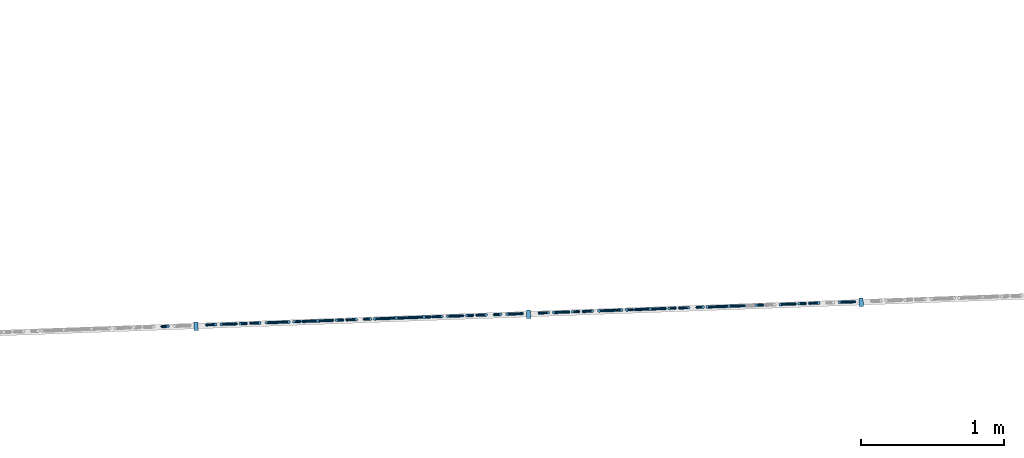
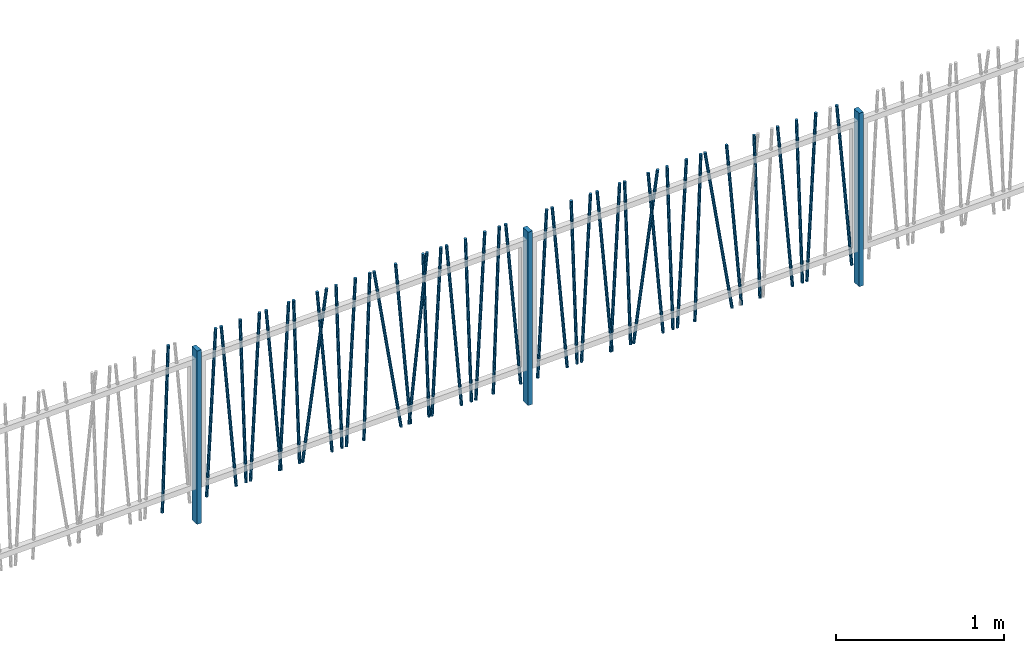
# One storey, part 6 of 171: 45 columns.
"""IFC2X3 building model written with IfcOpenShell, lengths in millimetres."""

from ifc_helpers import new_model, entity, si_unit, converted_unit, derived_unit, money_unit, direction, frame, origin_with_axes, origin_2d_with_axis, place, context, subcontext, project, spatial, rectangle, circle, extrude, clip, halfspace, material, type_object, element, save


model = new_model("IFC2X3")

# Units and contexts
model_context = context("Model", 3, precision=0.01, world=origin_with_axes(), true_north=direction((0.0, 1.0)))
body_context = subcontext(model_context, "Body", "Model", "MODEL_VIEW")
ifc_project = project(units=[si_unit("LENGTHUNIT", "METRE", prefix="MILLI"), si_unit("AREAUNIT", "SQUARE_METRE"), si_unit("VOLUMEUNIT", "CUBIC_METRE"), converted_unit("PLANEANGLEUNIT", "DEGREE", entity("IfcPlaneAngleMeasure", 0.0174532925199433), si_unit("PLANEANGLEUNIT", "RADIAN"), dimensions=[0, 0, 0, 0, 0, 0, 0]), money_unit("USD"), converted_unit("TIMEUNIT", "Year", entity("IfcTimeMeasure", 31557600.0), si_unit("TIMEUNIT", "SECOND"), dimensions=[0, 0, 1, 0, 0, 0, 0]), si_unit("MASSUNIT", "GRAM", prefix="KILO"), si_unit("THERMODYNAMICTEMPERATUREUNIT", "DEGREE_CELSIUS"), si_unit("LUMINOUSINTENSITYUNIT", "LUMEN"), si_unit("ENERGYUNIT", "JOULE", prefix="MEGA"), derived_unit("THERMALCONDUCTANCEUNIT", [(si_unit("POWERUNIT", "WATT"), 1), (si_unit("LENGTHUNIT", "METRE"), -1), (si_unit("THERMODYNAMICTEMPERATUREUNIT", "KELVIN"), -1)]), derived_unit("SPECIFICHEATCAPACITYUNIT", [(si_unit("ENERGYUNIT", "JOULE"), 1), (si_unit("MASSUNIT", "GRAM", prefix="KILO"), -1), (si_unit("THERMODYNAMICTEMPERATUREUNIT", "KELVIN"), -1)]), derived_unit("MASSDENSITYUNIT", [(si_unit("MASSUNIT", "GRAM", prefix="KILO"), 1), (si_unit("VOLUMEUNIT", "CUBIC_METRE"), -1)])], contexts=[model_context])

# Site, building, storey
site_placement = place(None, origin_with_axes())
site = spatial("IfcSite", under=ifc_project, at=site_placement, Name="Site", CompositionType="ELEMENT")
building_placement = place(site_placement, origin_with_axes())
building = spatial("IfcBuilding", under=site, at=building_placement, Name="Bâtiment", CompositionType="ELEMENT")
storey_placement = place(building_placement, frame((0.0, 0.0, 3000.0), z_axis=(0.0, 0.0, 1.0), x_axis=(1.0, 0.0, 0.0)))
storey = spatial("IfcBuildingStorey", under=building, at=storey_placement, Name="rdc", CompositionType="ELEMENT", Elevation=3000.0)

# Columns
ifc_material = material(Name="Empty Fill 2959611567")
column_type_1 = type_object("IfcColumnType", Name="Empty Fill 2959611567 D20", PredefinedType="NOTDEFINED")
column_1_placement = place(storey_placement, frame((2234103.55734482, -667536.7174946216, -1950.0), z_axis=(0.0, 0.0, 1.0), x_axis=(-0.03567989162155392, 0.9993632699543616, 0.0)))
element("IfcColumn", 1, at=column_1_placement, inside=storey, type_object=column_type_1, material=ifc_material, Name="Pilier-019", context=body_context, shape_type="Clipping", body=[
    clip(clip(extrude(circle(Radius=10.0, at=origin_2d_with_axis()), frame((0.0, -0.02437434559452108, -0.6979899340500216), z_axis=(0.0, 0.03489949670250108, 0.9993908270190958), x_axis=(1.0, 0.0, 0.0)), (0.0, 0.0, 1.0), 1202.128283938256), halfspace(frame((0.0, 0.0, 0.0), z_axis=(0.0, 0.0, 1.0), x_axis=(0.0, -1.0, 0.0)), True)), halfspace(frame((0.0, 0.0, 1200.0), z_axis=(0.0, 0.0, -1.0), x_axis=(0.0, 1.0, 0.0)), True)),
])
column_2_placement = place(storey_placement, frame((2232543.385040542, -667592.4197406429, -1950.0), z_axis=(0.0, 0.0, 1.0), x_axis=(0.03567989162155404, -0.9993632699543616, 0.0)))
element("IfcColumn", 2, at=column_2_placement, inside=storey, type_object=column_type_1, material=ifc_material, Name="Pilier-019", context=body_context, shape_type="Clipping", body=[
    clip(clip(extrude(circle(Radius=10.0, at=origin_2d_with_axis()), frame((0.0, -0.05485622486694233, -1.046719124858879), z_axis=(0.0, -0.05233595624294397, -0.9986295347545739), x_axis=(-1.0, 0.0, 0.0)), (0.0, 0.0, -1.0), 1203.743126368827), halfspace(frame((0.0, 0.0, 0.0), z_axis=(0.0, 0.0, 1.0), x_axis=(0.0, -1.0, 0.0)), True)), halfspace(frame((0.0, 0.0, 1200.0), z_axis=(0.0, 0.0, -1.0), x_axis=(0.0, 1.0, 0.0)), True)),
])
column_3_placement = place(storey_placement, frame((2232750.393553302, -667585.0289934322, -1950.0), z_axis=(0.0, 0.0, 1.0), x_axis=(-0.03567989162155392, 0.9993632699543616, 0.0)))
element("IfcColumn", 3, at=column_3_placement, inside=storey, type_object=column_type_1, material=ifc_material, Name="Pilier-019", context=body_context, shape_type="Clipping", body=[
    clip(clip(extrude(circle(Radius=10.0, at=origin_2d_with_axis()), frame((0.0, -0.152502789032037, -1.743114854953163), z_axis=(0.0, 0.08715574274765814, 0.9961946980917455), x_axis=(1.0, 0.0, 0.0)), (0.0, 0.0, 1.0), 1208.083351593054), halfspace(frame((0.0, 0.0, 0.0), z_axis=(0.0, 0.0, 1.0), x_axis=(0.0, -1.0, 0.0)), True)), halfspace(frame((0.0, 0.0, 1200.0), z_axis=(0.0, 0.0, -1.0), x_axis=(0.0, 1.0, 0.0)), True)),
])
column_4_placement = place(storey_placement, frame((2229908.659358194, -667686.4863624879, -1950.0), z_axis=(0.0, 0.0, 1.0), x_axis=(0.03567989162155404, -0.9993632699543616, 0.0)))
element("IfcColumn", 4, at=column_4_placement, inside=storey, type_object=column_type_1, material=ifc_material, Name="Pilier-019", context=body_context, shape_type="Clipping", body=[
    clip(clip(extrude(circle(Radius=10.0, at=origin_2d_with_axis()), frame((0.0, -0.02437434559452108, -0.6979899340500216), z_axis=(0.0, -0.03489949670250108, -0.9993908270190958), x_axis=(-1.0, 0.0, 0.0)), (0.0, 0.0, -1.0), 1202.128283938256), halfspace(frame((0.0, 0.0, 0.0), z_axis=(0.0, 0.0, 1.0), x_axis=(0.0, -1.0, 0.0)), True)), halfspace(frame((0.0, 0.0, 1200.0), z_axis=(0.0, 0.0, -1.0), x_axis=(0.0, 1.0, 0.0)), True)),
])
column_5_placement = place(storey_placement, frame((2230732.554617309, -667657.0711393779, -1950.0), z_axis=(0.0, 0.0, 1.0), x_axis=(0.03567989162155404, -0.9993632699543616, 0.0)))
element("IfcColumn", 5, at=column_5_placement, inside=storey, type_object=column_type_1, material=ifc_material, Name="Pilier-019", context=body_context, shape_type="Clipping", body=[
    clip(clip(extrude(circle(Radius=10.0, at=origin_2d_with_axis()), frame((0.0, -0.05485622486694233, -1.046719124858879), z_axis=(0.0, -0.05233595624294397, -0.9986295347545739), x_axis=(-1.0, 0.0, 0.0)), (0.0, 0.0, -1.0), 1203.743126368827), halfspace(frame((0.0, 0.0, 0.0), z_axis=(0.0, 0.0, 1.0), x_axis=(0.0, -1.0, 0.0)), True)), halfspace(frame((0.0, 0.0, 1200.0), z_axis=(0.0, 0.0, -1.0), x_axis=(0.0, 1.0, 0.0)), True)),
])
column_6_placement = place(storey_placement, frame((2231169.832747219, -667641.4591624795, -1950.0), z_axis=(0.0, 0.0, 1.0), x_axis=(-0.03567989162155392, 0.9993632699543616, 0.0)))
element("IfcColumn", 6, at=column_6_placement, inside=storey, type_object=column_type_1, material=ifc_material, Name="Pilier-019", context=body_context, shape_type="Clipping", body=[
    clip(clip(extrude(circle(Radius=10.0, at=origin_2d_with_axis()), frame((0.0, -0.02437434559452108, -0.6979899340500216), z_axis=(0.0, 0.03489949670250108, 0.9993908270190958), x_axis=(1.0, 0.0, 0.0)), (0.0, 0.0, 1.0), 1202.128283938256), halfspace(frame((0.0, 0.0, 0.0), z_axis=(0.0, 0.0, 1.0), x_axis=(0.0, -1.0, 0.0)), True)), halfspace(frame((0.0, 0.0, 1200.0), z_axis=(0.0, 0.0, -1.0), x_axis=(0.0, 1.0, 0.0)), True)),
])
column_7_placement = place(storey_placement, frame((2231323.361051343, -667635.9777990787, -1950.0), z_axis=(0.0, 0.0, 1.0), x_axis=(0.03567989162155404, -0.9993632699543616, 0.0)))
element("IfcColumn", 7, at=column_7_placement, inside=storey, type_object=column_type_1, material=ifc_material, Name="Pilier-019", context=body_context, shape_type="Clipping", body=[
    clip(clip(extrude(circle(Radius=10.0, at=origin_2d_with_axis()), frame((0.0, -0.02437434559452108, -0.6979899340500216), z_axis=(0.0, -0.03489949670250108, -0.9993908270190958), x_axis=(-1.0, 0.0, 0.0)), (0.0, 0.0, -1.0), 1202.128283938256), halfspace(frame((0.0, 0.0, 0.0), z_axis=(0.0, 0.0, 1.0), x_axis=(0.0, -1.0, 0.0)), True)), halfspace(frame((0.0, 0.0, 1200.0), z_axis=(0.0, 0.0, -1.0), x_axis=(0.0, 1.0, 0.0)), True)),
])
column_8_placement = place(storey_placement, frame((2230872.283197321, -667652.0824623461, -1950.0), z_axis=(0.0, 0.0, 1.0), x_axis=(-0.03567989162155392, 0.9993632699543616, 0.0)))
element("IfcColumn", 8, at=column_8_placement, inside=storey, type_object=column_type_1, material=ifc_material, Name="Pilier-019", context=body_context, shape_type="Clipping", body=[
    clip(clip(extrude(circle(Radius=10.0, at=origin_2d_with_axis()), frame((0.0, -0.02437434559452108, -0.6979899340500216), z_axis=(0.0, 0.03489949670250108, 0.9993908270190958), x_axis=(1.0, 0.0, 0.0)), (0.0, 0.0, 1.0), 1202.128283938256), halfspace(frame((0.0, 0.0, 0.0), z_axis=(0.0, 0.0, 1.0), x_axis=(0.0, -1.0, 0.0)), True)), halfspace(frame((0.0, 0.0, 1200.0), z_axis=(0.0, 0.0, -1.0), x_axis=(0.0, 1.0, 0.0)), True)),
])
column_9_placement = place(storey_placement, frame((2231201.105975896, -667640.3426261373, -1950.0), z_axis=(0.0, 0.0, 1.0), x_axis=(0.03567989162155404, -0.9993632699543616, 0.0)))
element("IfcColumn", 9, at=column_9_placement, inside=storey, type_object=column_type_1, material=ifc_material, Name="Pilier-019", context=body_context, shape_type="Clipping", body=[
    clip(clip(extrude(circle(Radius=10.0, at=origin_2d_with_axis()), frame((0.0, -0.05485622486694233, -1.046719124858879), z_axis=(0.0, -0.05233595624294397, -0.9986295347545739), x_axis=(-1.0, 0.0, 0.0)), (0.0, 0.0, -1.0), 1203.743126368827), halfspace(frame((0.0, 0.0, 0.0), z_axis=(0.0, 0.0, 1.0), x_axis=(0.0, -1.0, 0.0)), True)), halfspace(frame((0.0, 0.0, 1200.0), z_axis=(0.0, 0.0, -1.0), x_axis=(0.0, 1.0, 0.0)), True)),
])
column_10_placement = place(storey_placement, frame((2231584.532856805, -667626.6532801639, -1950.0), z_axis=(0.0, 0.0, 1.0), x_axis=(-0.03567989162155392, 0.9993632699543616, 0.0)))
element("IfcColumn", 10, at=column_10_placement, inside=storey, type_object=column_type_1, material=ifc_material, Name="Pilier-019", context=body_context, shape_type="Clipping", body=[
    clip(clip(extrude(circle(Radius=10.0, at=origin_2d_with_axis()), frame((0.0, -0.4955357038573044, -3.128689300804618), z_axis=(0.0, 0.1564344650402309, 0.9876883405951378), x_axis=(1.0, 0.0, 0.0)), (0.0, 0.0, 1.0), 1221.293528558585), halfspace(frame((0.0, 0.0, 0.0), z_axis=(0.0, 0.0, 1.0), x_axis=(0.0, -1.0, 0.0)), True)), halfspace(frame((0.0, 0.0, 1200.0), z_axis=(0.0, 0.0, -1.0), x_axis=(0.0, 1.0, 0.0)), True)),
])
for number, where, z_axis, x_axis, name in (
    (11, (2231650.739178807, -667624.2895407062, -1950.0), (0.0, 0.0, 1.0), (-0.03567989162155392, 0.9993632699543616, 0.0), "Pilier-019"),
    (12, (2230742.452951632, -667656.7177428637, -1950.0), (0.0, 0.0, 1.0), (-0.03567989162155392, 0.9993632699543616, 0.0), "Pilier-019"),
    (13, (2232424.116563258, -667596.6779383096, -1950.0), (0.0, 0.0, 1.0), (-0.03567989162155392, 0.9993632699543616, 0.0), "Pilier-019"),
):
    element("IfcColumn", number, at=place(storey_placement, frame(where, z_axis=z_axis, x_axis=x_axis)), inside=storey, type_object=column_type_1, material=ifc_material, Name=name, context=body_context, shape_type="Clipping", body=[
        clip(clip(extrude(circle(Radius=10.0, at=origin_2d_with_axis()), frame((0.0, -0.152502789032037, -1.743114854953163), z_axis=(0.0, 0.08715574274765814, 0.9961946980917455), x_axis=(1.0, 0.0, 0.0)), (0.0, 0.0, 1.0), 1208.083351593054), halfspace(frame((0.0, 0.0, 0.0), z_axis=(0.0, 0.0, 1.0), x_axis=(0.0, -1.0, 0.0)), True)), halfspace(frame((0.0, 0.0, 1200.0), z_axis=(0.0, 0.0, -1.0), x_axis=(0.0, 1.0, 0.0)), True)),
    ])
column_11_placement = place(storey_placement, frame((2230528.098978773, -667664.3707422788, -1950.0), z_axis=(0.0, 0.0, 1.0), x_axis=(0.03567989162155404, -0.9993632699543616, 0.0)))
element("IfcColumn", 14, at=column_11_placement, inside=storey, type_object=column_type_1, material=ifc_material, Name="Pilier-019", context=body_context, shape_type="Clipping", body=[
    clip(clip(extrude(circle(Radius=10.0, at=origin_2d_with_axis()), frame((0.0, -0.05485622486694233, -1.046719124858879), z_axis=(0.0, -0.05233595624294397, -0.9986295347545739), x_axis=(-1.0, 0.0, 0.0)), (0.0, 0.0, -1.0), 1203.743126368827), halfspace(frame((0.0, 0.0, 0.0), z_axis=(0.0, 0.0, 1.0), x_axis=(0.0, -1.0, 0.0)), True)), halfspace(frame((0.0, 0.0, 1200.0), z_axis=(0.0, 0.0, -1.0), x_axis=(0.0, 1.0, 0.0)), True)),
])
column_12_placement = place(storey_placement, frame((2230496.825750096, -667665.4872786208, -1950.0), z_axis=(0.0, 0.0, 1.0), x_axis=(-0.03567989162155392, 0.9993632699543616, 0.0)))
element("IfcColumn", 15, at=column_12_placement, inside=storey, type_object=column_type_1, material=ifc_material, Name="Pilier-019", context=body_context, shape_type="Clipping", body=[
    clip(clip(extrude(circle(Radius=10.0, at=origin_2d_with_axis()), frame((0.0, -0.02437434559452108, -0.6979899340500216), z_axis=(0.0, 0.03489949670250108, 0.9993908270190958), x_axis=(1.0, 0.0, 0.0)), (0.0, 0.0, 1.0), 1202.128283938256), halfspace(frame((0.0, 0.0, 0.0), z_axis=(0.0, 0.0, 1.0), x_axis=(0.0, -1.0, 0.0)), True)), halfspace(frame((0.0, 0.0, 1200.0), z_axis=(0.0, 0.0, -1.0), x_axis=(0.0, 1.0, 0.0)), True)),
])
column_13_placement = place(storey_placement, frame((2231100.4126301, -667643.9376428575, -1950.0), z_axis=(0.0, 0.0, 1.0), x_axis=(-0.03567989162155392, 0.9993632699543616, 0.0)))
element("IfcColumn", 16, at=column_13_placement, inside=storey, type_object=column_type_1, material=ifc_material, Name="Pilier-019", context=body_context, shape_type="Clipping", body=[
    clip(clip(extrude(circle(Radius=10.0, at=origin_2d_with_axis()), frame((0.0, -0.152502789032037, -1.743114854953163), z_axis=(0.0, 0.08715574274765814, 0.9961946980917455), x_axis=(1.0, 0.0, 0.0)), (0.0, 0.0, 1.0), 1208.083351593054), halfspace(frame((0.0, 0.0, 0.0), z_axis=(0.0, 0.0, 1.0), x_axis=(0.0, -1.0, 0.0)), True)), halfspace(frame((0.0, 0.0, 1200.0), z_axis=(0.0, 0.0, -1.0), x_axis=(0.0, 1.0, 0.0)), True)),
])
column_14_placement = place(storey_placement, frame((2231640.840844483, -667624.6429372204, -1950.0), z_axis=(0.0, 0.0, 1.0), x_axis=(0.03567989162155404, -0.9993632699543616, 0.0)))
element("IfcColumn", 17, at=column_14_placement, inside=storey, type_object=column_type_1, material=ifc_material, Name="Pilier-019", context=body_context, shape_type="Clipping", body=[
    clip(clip(extrude(circle(Radius=10.0, at=origin_2d_with_axis()), frame((0.0, -0.2197276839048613, -2.090569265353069), z_axis=(0.0, -0.1045284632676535, -0.9945218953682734), x_axis=(-1.0, 0.0, 0.0)), (0.0, 0.0, -1.0), 1210.814104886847), halfspace(frame((0.0, 0.0, 0.0), z_axis=(0.0, 0.0, 1.0), x_axis=(0.0, -1.0, 0.0)), True)), halfspace(frame((0.0, 0.0, 1200.0), z_axis=(0.0, 0.0, -1.0), x_axis=(0.0, 1.0, 0.0)), True)),
])
column_15_placement = place(storey_placement, frame((2232109.39220307, -667607.9144239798, -1950.0), z_axis=(0.0, 0.0, 1.0), x_axis=(0.03567989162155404, -0.9993632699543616, 0.0)))
element("IfcColumn", 18, at=column_15_placement, inside=storey, type_object=column_type_1, material=ifc_material, Name="Pilier-019", context=body_context, shape_type="Clipping", body=[
    clip(clip(extrude(circle(Radius=10.0, at=origin_2d_with_axis()), frame((0.0, -0.05485622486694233, -1.046719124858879), z_axis=(0.0, -0.05233595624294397, -0.9986295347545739), x_axis=(-1.0, 0.0, 0.0)), (0.0, 0.0, -1.0), 1203.743126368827), halfspace(frame((0.0, 0.0, 0.0), z_axis=(0.0, 0.0, 1.0), x_axis=(0.0, -1.0, 0.0)), True)), halfspace(frame((0.0, 0.0, 1200.0), z_axis=(0.0, 0.0, -1.0), x_axis=(0.0, 1.0, 0.0)), True)),
])
column_16_placement = place(storey_placement, frame((2230893.40411734, -667651.3283900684, -1950.0), z_axis=(0.0, 0.0, 1.0), x_axis=(0.03567989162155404, -0.9993632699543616, 0.0)))
element("IfcColumn", 19, at=column_16_placement, inside=storey, type_object=column_type_1, material=ifc_material, Name="Pilier-019", context=body_context, shape_type="Clipping", body=[
    clip(clip(extrude(circle(Radius=10.0, at=origin_2d_with_axis()), frame((0.0, -0.3911900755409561, -2.78346201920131), z_axis=(0.0, -0.1391731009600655, -0.9902680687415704), x_axis=(-1.0, 0.0, 0.0)), (0.0, 0.0, -1.0), 1217.414720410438), halfspace(frame((0.0, 0.0, 0.0), z_axis=(0.0, 0.0, 1.0), x_axis=(0.0, -1.0, 0.0)), True)), halfspace(frame((0.0, 0.0, 1200.0), z_axis=(0.0, 0.0, -1.0), x_axis=(0.0, 1.0, 0.0)), True)),
])
column_17_placement = place(storey_placement, frame((2232078.118974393, -667609.0309603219, -1950.0), z_axis=(0.0, 0.0, 1.0), x_axis=(-0.03567989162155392, 0.9993632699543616, 0.0)))
element("IfcColumn", 20, at=column_17_placement, inside=storey, type_object=column_type_1, material=ifc_material, Name="Pilier-019", context=body_context, shape_type="Clipping", body=[
    clip(clip(extrude(circle(Radius=10.0, at=origin_2d_with_axis()), frame((0.0, -0.02437434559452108, -0.6979899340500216), z_axis=(0.0, 0.03489949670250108, 0.9993908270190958), x_axis=(1.0, 0.0, 0.0)), (0.0, 0.0, 1.0), 1202.128283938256), halfspace(frame((0.0, 0.0, 0.0), z_axis=(0.0, 0.0, 1.0), x_axis=(0.0, -1.0, 0.0)), True)), halfspace(frame((0.0, 0.0, 1200.0), z_axis=(0.0, 0.0, -1.0), x_axis=(0.0, 1.0, 0.0)), True)),
])
column_18_placement = place(storey_placement, frame((2232231.647278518, -667603.5495969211, -1950.0), z_axis=(0.0, 0.0, 1.0), x_axis=(0.03567989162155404, -0.9993632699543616, 0.0)))
element("IfcColumn", 21, at=column_18_placement, inside=storey, type_object=column_type_1, material=ifc_material, Name="Pilier-019", context=body_context, shape_type="Clipping", body=[
    clip(clip(extrude(circle(Radius=10.0, at=origin_2d_with_axis()), frame((0.0, -0.02437434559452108, -0.6979899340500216), z_axis=(0.0, -0.03489949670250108, -0.9993908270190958), x_axis=(-1.0, 0.0, 0.0)), (0.0, 0.0, -1.0), 1202.128283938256), halfspace(frame((0.0, 0.0, 0.0), z_axis=(0.0, 0.0, 1.0), x_axis=(0.0, -1.0, 0.0)), True)), halfspace(frame((0.0, 0.0, 1200.0), z_axis=(0.0, 0.0, -1.0), x_axis=(0.0, 1.0, 0.0)), True)),
])
column_19_placement = place(storey_placement, frame((2231780.569424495, -667619.6542601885, -1950.0), z_axis=(0.0, 0.0, 1.0), x_axis=(-0.03567989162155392, 0.9993632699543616, 0.0)))
element("IfcColumn", 22, at=column_19_placement, inside=storey, type_object=column_type_1, material=ifc_material, Name="Pilier-019", context=body_context, shape_type="Clipping", body=[
    clip(clip(extrude(circle(Radius=10.0, at=origin_2d_with_axis()), frame((0.0, -0.02437434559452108, -0.6979899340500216), z_axis=(0.0, 0.03489949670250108, 0.9993908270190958), x_axis=(1.0, 0.0, 0.0)), (0.0, 0.0, 1.0), 1202.128283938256), halfspace(frame((0.0, 0.0, 0.0), z_axis=(0.0, 0.0, 1.0), x_axis=(0.0, -1.0, 0.0)), True)), halfspace(frame((0.0, 0.0, 1200.0), z_axis=(0.0, 0.0, -1.0), x_axis=(0.0, 1.0, 0.0)), True)),
])
column_20_placement = place(storey_placement, frame((2232008.698857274, -667611.5094406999, -1950.0), z_axis=(0.0, 0.0, 1.0), x_axis=(-0.03567989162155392, 0.9993632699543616, 0.0)))
element("IfcColumn", 23, at=column_20_placement, inside=storey, type_object=column_type_1, material=ifc_material, Name="Pilier-019", context=body_context, shape_type="Clipping", body=[
    clip(clip(extrude(circle(Radius=10.0, at=origin_2d_with_axis()), frame((0.0, -0.152502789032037, -1.743114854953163), z_axis=(0.0, 0.08715574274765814, 0.9961946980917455), x_axis=(1.0, 0.0, 0.0)), (0.0, 0.0, 1.0), 1208.083351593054), halfspace(frame((0.0, 0.0, 0.0), z_axis=(0.0, 0.0, 1.0), x_axis=(0.0, -1.0, 0.0)), True)), halfspace(frame((0.0, 0.0, 1200.0), z_axis=(0.0, 0.0, -1.0), x_axis=(0.0, 1.0, 0.0)), True)),
])
column_21_placement = place(storey_placement, frame((2231801.690344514, -667618.9001879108, -1950.0), z_axis=(0.0, 0.0, 1.0), x_axis=(0.03567989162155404, -0.9993632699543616, 0.0)))
element("IfcColumn", 24, at=column_21_placement, inside=storey, type_object=column_type_1, material=ifc_material, Name="Pilier-019", context=body_context, shape_type="Clipping", body=[
    clip(clip(extrude(circle(Radius=10.0, at=origin_2d_with_axis()), frame((0.0, -0.05485622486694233, -1.046719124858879), z_axis=(0.0, -0.05233595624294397, -0.9986295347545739), x_axis=(-1.0, 0.0, 0.0)), (0.0, 0.0, -1.0), 1203.743126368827), halfspace(frame((0.0, 0.0, 0.0), z_axis=(0.0, 0.0, 1.0), x_axis=(0.0, -1.0, 0.0)), True)), halfspace(frame((0.0, 0.0, 1200.0), z_axis=(0.0, 0.0, -1.0), x_axis=(0.0, 1.0, 0.0)), True)),
])
column_22_placement = place(storey_placement, frame((2230427.405632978, -667667.9657589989, -1950.0), z_axis=(0.0, 0.0, 1.0), x_axis=(-0.03567989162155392, 0.9993632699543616, 0.0)))
element("IfcColumn", 25, at=column_22_placement, inside=storey, type_object=column_type_1, material=ifc_material, Name="Pilier-019", context=body_context, shape_type="Clipping", body=[
    clip(clip(extrude(circle(Radius=10.0, at=origin_2d_with_axis()), frame((0.0, -0.152502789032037, -1.743114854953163), z_axis=(0.0, 0.08715574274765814, 0.9961946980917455), x_axis=(1.0, 0.0, 0.0)), (0.0, 0.0, 1.0), 1208.083351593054), halfspace(frame((0.0, 0.0, 0.0), z_axis=(0.0, 0.0, 1.0), x_axis=(0.0, -1.0, 0.0)), True)), halfspace(frame((0.0, 0.0, 1200.0), z_axis=(0.0, 0.0, -1.0), x_axis=(0.0, 1.0, 0.0)), True)),
])
for number, where, z_axis, x_axis, name in (
    (26, (2230220.397120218, -667675.3565062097, -1950.0), (0.0, 0.0, 1.0), (0.03567989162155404, -0.9993632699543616, 0.0), "Pilier-019"),
    (27, (2233055.542537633, -667574.1343738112, -1950.0), (0.0, 0.0, 1.0), (0.03567989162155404, -0.9993632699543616, 0.0), "Pilier-019"),
):
    element("IfcColumn", number, at=place(storey_placement, frame(where, z_axis=z_axis, x_axis=x_axis)), inside=storey, type_object=column_type_1, material=ifc_material, Name=name, context=body_context, shape_type="Clipping", body=[
        clip(clip(extrude(circle(Radius=10.0, at=origin_2d_with_axis()), frame((0.0, -0.05485622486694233, -1.046719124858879), z_axis=(0.0, -0.05233595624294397, -0.9986295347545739), x_axis=(-1.0, 0.0, 0.0)), (0.0, 0.0, -1.0), 1203.743126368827), halfspace(frame((0.0, 0.0, 0.0), z_axis=(0.0, 0.0, 1.0), x_axis=(0.0, -1.0, 0.0)), True)), halfspace(frame((0.0, 0.0, 1200.0), z_axis=(0.0, 0.0, -1.0), x_axis=(0.0, 1.0, 0.0)), True)),
    ])
column_23_placement = place(storey_placement, frame((2233492.820667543, -667558.5223969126, -1950.0), z_axis=(0.0, 0.0, 1.0), x_axis=(-0.03567989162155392, 0.9993632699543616, 0.0)))
element("IfcColumn", 28, at=column_23_placement, inside=storey, type_object=column_type_1, material=ifc_material, Name="Pilier-019", context=body_context, shape_type="Clipping", body=[
    clip(clip(extrude(circle(Radius=10.0, at=origin_2d_with_axis()), frame((0.0, -0.02437434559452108, -0.6979899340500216), z_axis=(0.0, 0.03489949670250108, 0.9993908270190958), x_axis=(1.0, 0.0, 0.0)), (0.0, 0.0, 1.0), 1202.128283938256), halfspace(frame((0.0, 0.0, 0.0), z_axis=(0.0, 0.0, 1.0), x_axis=(0.0, -1.0, 0.0)), True)), halfspace(frame((0.0, 0.0, 1200.0), z_axis=(0.0, 0.0, -1.0), x_axis=(0.0, 1.0, 0.0)), True)),
])
column_24_placement = place(storey_placement, frame((2233524.09389622, -667557.4058605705, -1950.0), z_axis=(0.0, 0.0, 1.0), x_axis=(0.03567989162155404, -0.9993632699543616, 0.0)))
element("IfcColumn", 29, at=column_24_placement, inside=storey, type_object=column_type_1, material=ifc_material, Name="Pilier-019", context=body_context, shape_type="Clipping", body=[
    clip(clip(extrude(circle(Radius=10.0, at=origin_2d_with_axis()), frame((0.0, -0.05485622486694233, -1.046719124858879), z_axis=(0.0, -0.05233595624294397, -0.9986295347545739), x_axis=(-1.0, 0.0, 0.0)), (0.0, 0.0, -1.0), 1203.743126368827), halfspace(frame((0.0, 0.0, 0.0), z_axis=(0.0, 0.0, 1.0), x_axis=(0.0, -1.0, 0.0)), True)), halfspace(frame((0.0, 0.0, 1200.0), z_axis=(0.0, 0.0, -1.0), x_axis=(0.0, 1.0, 0.0)), True)),
])
column_25_placement = place(storey_placement, frame((2233646.348971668, -667553.0410335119, -1950.0), z_axis=(0.0, 0.0, 1.0), x_axis=(0.03567989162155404, -0.9993632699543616, 0.0)))
element("IfcColumn", 30, at=column_25_placement, inside=storey, type_object=column_type_1, material=ifc_material, Name="Pilier-019", context=body_context, shape_type="Clipping", body=[
    clip(clip(extrude(circle(Radius=10.0, at=origin_2d_with_axis()), frame((0.0, -0.02437434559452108, -0.6979899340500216), z_axis=(0.0, -0.03489949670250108, -0.9993908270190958), x_axis=(-1.0, 0.0, 0.0)), (0.0, 0.0, -1.0), 1202.128283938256), halfspace(frame((0.0, 0.0, 0.0), z_axis=(0.0, 0.0, 1.0), x_axis=(0.0, -1.0, 0.0)), True)), halfspace(frame((0.0, 0.0, 1200.0), z_axis=(0.0, 0.0, -1.0), x_axis=(0.0, 1.0, 0.0)), True)),
])
column_26_placement = place(storey_placement, frame((2233907.520777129, -667543.7165145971, -1950.0), z_axis=(0.0, 0.0, 1.0), x_axis=(-0.03567989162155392, 0.9993632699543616, 0.0)))
element("IfcColumn", 31, at=column_26_placement, inside=storey, type_object=column_type_1, material=ifc_material, Name="Pilier-019", context=body_context, shape_type="Clipping", body=[
    clip(clip(extrude(circle(Radius=10.0, at=origin_2d_with_axis()), frame((0.0, -0.4955357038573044, -3.128689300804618), z_axis=(0.0, 0.1564344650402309, 0.9876883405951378), x_axis=(1.0, 0.0, 0.0)), (0.0, 0.0, 1.0), 1221.293528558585), halfspace(frame((0.0, 0.0, 0.0), z_axis=(0.0, 0.0, 1.0), x_axis=(0.0, -1.0, 0.0)), True)), halfspace(frame((0.0, 0.0, 1200.0), z_axis=(0.0, 0.0, -1.0), x_axis=(0.0, 1.0, 0.0)), True)),
])
for number, where, z_axis, x_axis, name in (
    (32, (2234747.104483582, -667513.7411727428, -1950.0), (0.0, 0.0, 1.0), (-0.03567989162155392, 0.9993632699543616, 0.0), "Pilier-019"),
    (33, (2233973.727099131, -667541.3527751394, -1950.0), (0.0, 0.0, 1.0), (-0.03567989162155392, 0.9993632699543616, 0.0), "Pilier-019"),
):
    element("IfcColumn", number, at=place(storey_placement, frame(where, z_axis=z_axis, x_axis=x_axis)), inside=storey, type_object=column_type_1, material=ifc_material, Name=name, context=body_context, shape_type="Clipping", body=[
        clip(clip(extrude(circle(Radius=10.0, at=origin_2d_with_axis()), frame((0.0, -0.152502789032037, -1.743114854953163), z_axis=(0.0, 0.08715574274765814, 0.9961946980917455), x_axis=(1.0, 0.0, 0.0)), (0.0, 0.0, 1.0), 1208.083351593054), halfspace(frame((0.0, 0.0, 0.0), z_axis=(0.0, 0.0, 1.0), x_axis=(0.0, -1.0, 0.0)), True)), halfspace(frame((0.0, 0.0, 1200.0), z_axis=(0.0, 0.0, -1.0), x_axis=(0.0, 1.0, 0.0)), True)),
    ])
column_27_placement = place(storey_placement, frame((2232851.086899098, -667581.4339767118, -1950.0), z_axis=(0.0, 0.0, 1.0), x_axis=(0.03567989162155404, -0.9993632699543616, 0.0)))
element("IfcColumn", 34, at=column_27_placement, inside=storey, type_object=column_type_1, material=ifc_material, Name="Pilier-019", context=body_context, shape_type="Clipping", body=[
    clip(clip(extrude(circle(Radius=10.0, at=origin_2d_with_axis()), frame((0.0, -0.05485622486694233, -1.046719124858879), z_axis=(0.0, -0.05233595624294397, -0.9986295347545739), x_axis=(-1.0, 0.0, 0.0)), (0.0, 0.0, -1.0), 1203.743126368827), halfspace(frame((0.0, 0.0, 0.0), z_axis=(0.0, 0.0, 1.0), x_axis=(0.0, -1.0, 0.0)), True)), halfspace(frame((0.0, 0.0, 1200.0), z_axis=(0.0, 0.0, -1.0), x_axis=(0.0, 1.0, 0.0)), True)),
])
column_28_placement = place(storey_placement, frame((2232819.813670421, -667582.550513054, -1950.0), z_axis=(0.0, 0.0, 1.0), x_axis=(-0.03567989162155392, 0.9993632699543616, 0.0)))
element("IfcColumn", 35, at=column_28_placement, inside=storey, type_object=column_type_1, material=ifc_material, Name="Pilier-019", context=body_context, shape_type="Clipping", body=[
    clip(clip(extrude(circle(Radius=10.0, at=origin_2d_with_axis()), frame((0.0, -0.02437434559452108, -0.6979899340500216), z_axis=(0.0, 0.03489949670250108, 0.9993908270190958), x_axis=(1.0, 0.0, 0.0)), (0.0, 0.0, 1.0), 1202.128283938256), halfspace(frame((0.0, 0.0, 0.0), z_axis=(0.0, 0.0, 1.0), x_axis=(0.0, -1.0, 0.0)), True)), halfspace(frame((0.0, 0.0, 1200.0), z_axis=(0.0, 0.0, -1.0), x_axis=(0.0, 1.0, 0.0)), True)),
])
for number, where, z_axis, x_axis, name in (
    (36, (2233423.400550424, -667561.0008772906, -1950.0), (0.0, 0.0, 1.0), (-0.03567989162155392, 0.9993632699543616, 0.0), "Pilier-019"),
    (37, (2233065.440871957, -667573.7809772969, -1950.0), (0.0, 0.0, 1.0), (-0.03567989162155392, 0.9993632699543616, 0.0), "Pilier-019"),
):
    element("IfcColumn", number, at=place(storey_placement, frame(where, z_axis=z_axis, x_axis=x_axis)), inside=storey, type_object=column_type_1, material=ifc_material, Name=name, context=body_context, shape_type="Clipping", body=[
        clip(clip(extrude(circle(Radius=10.0, at=origin_2d_with_axis()), frame((0.0, -0.152502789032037, -1.743114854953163), z_axis=(0.0, 0.08715574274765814, 0.9961946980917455), x_axis=(1.0, 0.0, 0.0)), (0.0, 0.0, 1.0), 1208.083351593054), halfspace(frame((0.0, 0.0, 0.0), z_axis=(0.0, 0.0, 1.0), x_axis=(0.0, -1.0, 0.0)), True)), halfspace(frame((0.0, 0.0, 1200.0), z_axis=(0.0, 0.0, -1.0), x_axis=(0.0, 1.0, 0.0)), True)),
    ])
column_29_placement = place(storey_placement, frame((2233216.392037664, -667568.3916245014, -1950.0), z_axis=(0.0, 0.0, 1.0), x_axis=(0.03567989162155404, -0.9993632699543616, 0.0)))
element("IfcColumn", 38, at=column_29_placement, inside=storey, type_object=column_type_1, material=ifc_material, Name="Pilier-019", context=body_context, shape_type="Clipping", body=[
    clip(clip(extrude(circle(Radius=10.0, at=origin_2d_with_axis()), frame((0.0, -0.3911900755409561, -2.78346201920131), z_axis=(0.0, -0.1391731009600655, -0.9902680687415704), x_axis=(-1.0, 0.0, 0.0)), (0.0, 0.0, -1.0), 1217.414720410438), halfspace(frame((0.0, 0.0, 0.0), z_axis=(0.0, 0.0, 1.0), x_axis=(0.0, -1.0, 0.0)), True)), halfspace(frame((0.0, 0.0, 1200.0), z_axis=(0.0, 0.0, -1.0), x_axis=(0.0, 1.0, 0.0)), True)),
])
column_30_placement = place(storey_placement, frame((2233195.271117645, -667569.1456967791, -1950.0), z_axis=(0.0, 0.0, 1.0), x_axis=(-0.03567989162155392, 0.9993632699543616, 0.0)))
element("IfcColumn", 39, at=column_30_placement, inside=storey, type_object=column_type_1, material=ifc_material, Name="Pilier-019", context=body_context, shape_type="Clipping", body=[
    clip(clip(extrude(circle(Radius=10.0, at=origin_2d_with_axis()), frame((0.0, -0.02437434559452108, -0.6979899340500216), z_axis=(0.0, 0.03489949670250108, 0.9993908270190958), x_axis=(1.0, 0.0, 0.0)), (0.0, 0.0, 1.0), 1202.128283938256), halfspace(frame((0.0, 0.0, 0.0), z_axis=(0.0, 0.0, 1.0), x_axis=(0.0, -1.0, 0.0)), True)), halfspace(frame((0.0, 0.0, 1200.0), z_axis=(0.0, 0.0, -1.0), x_axis=(0.0, 1.0, 0.0)), True)),
])
column_31_placement = place(storey_placement, frame((2234432.380123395, -667524.977658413, -1950.0), z_axis=(0.0, 0.0, 1.0), x_axis=(0.03567989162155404, -0.9993632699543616, 0.0)))
element("IfcColumn", 40, at=column_31_placement, inside=storey, type_object=column_type_1, material=ifc_material, Name="Pilier-019", context=body_context, shape_type="Clipping", body=[
    clip(clip(extrude(circle(Radius=10.0, at=origin_2d_with_axis()), frame((0.0, -0.05485622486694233, -1.046719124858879), z_axis=(0.0, -0.05233595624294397, -0.9986295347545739), x_axis=(-1.0, 0.0, 0.0)), (0.0, 0.0, -1.0), 1203.743126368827), halfspace(frame((0.0, 0.0, 0.0), z_axis=(0.0, 0.0, 1.0), x_axis=(0.0, -1.0, 0.0)), True)), halfspace(frame((0.0, 0.0, 1200.0), z_axis=(0.0, 0.0, -1.0), x_axis=(0.0, 1.0, 0.0)), True)),
])
column_32_placement = place(storey_placement, frame((2234401.106894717, -667526.0941947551, -1950.0), z_axis=(0.0, 0.0, 1.0), x_axis=(-0.03567989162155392, 0.9993632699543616, 0.0)))
element("IfcColumn", 41, at=column_32_placement, inside=storey, type_object=column_type_1, material=ifc_material, Name="Pilier-019", context=body_context, shape_type="Clipping", body=[
    clip(clip(extrude(circle(Radius=10.0, at=origin_2d_with_axis()), frame((0.0, -0.02437434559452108, -0.6979899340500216), z_axis=(0.0, 0.03489949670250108, 0.9993908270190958), x_axis=(1.0, 0.0, 0.0)), (0.0, 0.0, 1.0), 1202.128283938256), halfspace(frame((0.0, 0.0, 0.0), z_axis=(0.0, 0.0, 1.0), x_axis=(0.0, -1.0, 0.0)), True)), halfspace(frame((0.0, 0.0, 1200.0), z_axis=(0.0, 0.0, -1.0), x_axis=(0.0, 1.0, 0.0)), True)),
])
column_33_placement = place(storey_placement, frame((2234331.686777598, -667528.5726751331, -1950.0), z_axis=(0.0, 0.0, 1.0), x_axis=(-0.03567989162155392, 0.9993632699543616, 0.0)))
element("IfcColumn", 42, at=column_33_placement, inside=storey, type_object=column_type_1, material=ifc_material, Name="Pilier-019", context=body_context, shape_type="Clipping", body=[
    clip(clip(extrude(circle(Radius=10.0, at=origin_2d_with_axis()), frame((0.0, -0.152502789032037, -1.743114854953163), z_axis=(0.0, 0.08715574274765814, 0.9961946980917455), x_axis=(1.0, 0.0, 0.0)), (0.0, 0.0, 1.0), 1208.083351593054), halfspace(frame((0.0, 0.0, 0.0), z_axis=(0.0, 0.0, 1.0), x_axis=(0.0, -1.0, 0.0)), True)), halfspace(frame((0.0, 0.0, 1200.0), z_axis=(0.0, 0.0, -1.0), x_axis=(0.0, 1.0, 0.0)), True)),
])
column_type_2 = type_object("IfcColumnType", Name="Empty Fill 2959611567 30 x 60", PredefinedType="NOTDEFINED")
for number, where, z_axis, x_axis, name in (
    (43, (2234792.143796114, -667518.1631537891, -2100.0), (0.0, 0.0, 1.0), (0.9993632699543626, 0.03567989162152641, 0.0), "Pilier-019"),
    (44, (2230146.167955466, -667684.0366849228, -2100.0), (0.0, 0.0, 1.0), (0.9993632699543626, 0.03567989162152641, 0.0), "Pilier-019"),
    (45, (2232469.15587579, -667601.0999193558, -2100.0), (0.0, 0.0, 1.0), (0.9993632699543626, 0.03567989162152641, 0.0), "Pilier-019"),
):
    element("IfcColumn", number, at=place(storey_placement, frame(where, z_axis=z_axis, x_axis=x_axis)), inside=storey, type_object=column_type_2, material=ifc_material, Name=name, context=body_context, shape_type="SweptSolid", body=[
        extrude(rectangle(XDim=30.0, YDim=60.0, at=origin_2d_with_axis()), origin_with_axes(), (0.0, 0.0, 1.0), 1260.0),
    ])

save(model, "model.ifc")
